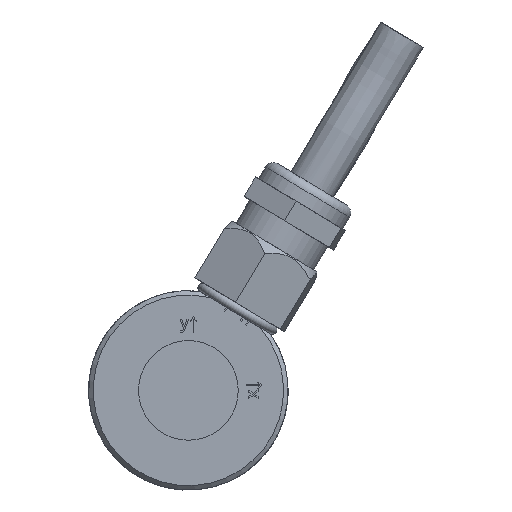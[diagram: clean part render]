
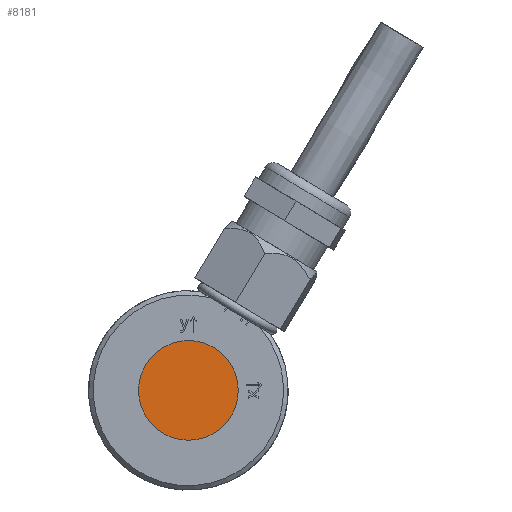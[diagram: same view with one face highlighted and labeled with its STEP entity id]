
A CAD part, left-side view. The second image highlights one B-rep face of the part: STEP entity #8181.
In plain terms, the highlighted planar face has unit normal (-1, 0, 0).
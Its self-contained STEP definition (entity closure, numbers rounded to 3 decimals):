
#759=CIRCLE('',#995,5.5);
#995=AXIS2_PLACEMENT_3D('',#10897,#3162,#3163);
#997=AXIS2_PLACEMENT_3D('',#10901,#3166,$);
#1262=PLANE('',#997);
#3162=DIRECTION('',(-1.,0.,0.));
#3163=DIRECTION('',(0.,0.,-5.5));
#3166=DIRECTION('',(1.,0.,0.));
#3969=VERTEX_POINT('',#10898);
#5046=EDGE_CURVE('',#3969,#3969,#759,.T.);
#6576=ORIENTED_EDGE('',*,*,#5046,.T.);
#7384=EDGE_LOOP('',(#6576));
#7802=FACE_BOUND('',#7384,.T.);
#8181=ADVANCED_FACE('',(#7802),#1262,.F.);
#10897=CARTESIAN_POINT('',(-29.,0.,0.));
#10898=CARTESIAN_POINT('',(-29.,0.,-5.5));
#10901=CARTESIAN_POINT('',(-29.,0.,0.));
